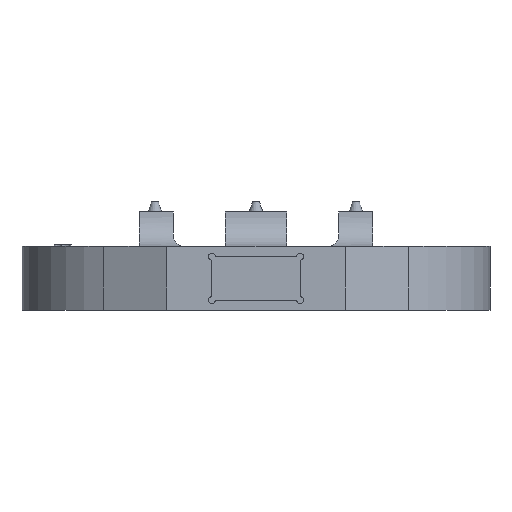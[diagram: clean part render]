
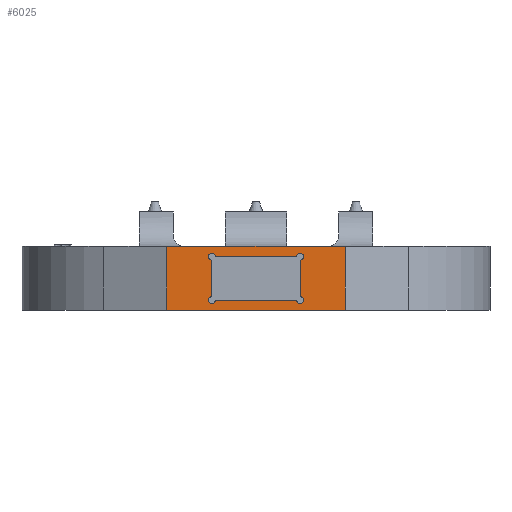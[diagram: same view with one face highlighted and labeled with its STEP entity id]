
A CAD part, left-side view. The second image highlights one B-rep face of the part: STEP entity #6025.
In plain terms, the highlighted planar face has unit normal (-1, 0, 0).
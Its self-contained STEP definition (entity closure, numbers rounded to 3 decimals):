
#6025=ADVANCED_FACE('',(#12111,#12113),#12115,.T.);
#12111=FACE_BOUND('',#12112,.T.);
#12112=EDGE_LOOP('',(#16607,#16608,#16609,#16610));
#12113=FACE_BOUND('',#12114,.T.);
#12114=EDGE_LOOP('',(#16611,#16612,#16613,#16614,#16615,#16616,#16617,#16618));
#12115=PLANE('',#12116);
#12116=AXIS2_PLACEMENT_3D('',#12117,#12118,#12119);
#12117=CARTESIAN_POINT('',(-190.,26.,0.));
#12118=DIRECTION('',(-1.,0.,0.));
#12119=DIRECTION('',(0.,-1.,0.));
#16607=ORIENTED_EDGE('',*,*,#19910,.T.);
#16608=ORIENTED_EDGE('',*,*,#19911,.T.);
#16609=ORIENTED_EDGE('',*,*,#18010,.F.);
#16610=ORIENTED_EDGE('',*,*,#19909,.F.);
#16611=ORIENTED_EDGE('',*,*,#19912,.T.);
#16612=ORIENTED_EDGE('',*,*,#19913,.T.);
#16613=ORIENTED_EDGE('',*,*,#19914,.T.);
#16614=ORIENTED_EDGE('',*,*,#19915,.T.);
#16615=ORIENTED_EDGE('',*,*,#19916,.T.);
#16616=ORIENTED_EDGE('',*,*,#19917,.T.);
#16617=ORIENTED_EDGE('',*,*,#19918,.T.);
#16618=ORIENTED_EDGE('',*,*,#19919,.T.);
#18010=EDGE_CURVE('',#20424,#20426,#20427,.T.);
#19909=EDGE_CURVE('',#23566,#20424,#23568,.T.);
#19910=EDGE_CURVE('',#23566,#23569,#23570,.T.);
#19911=EDGE_CURVE('',#23569,#20426,#23571,.T.);
#19912=EDGE_CURVE('',#23572,#23573,#23574,.F.);
#19913=EDGE_CURVE('',#23573,#23575,#23576,.F.);
#19914=EDGE_CURVE('',#23575,#23577,#23578,.F.);
#19915=EDGE_CURVE('',#23577,#23579,#23580,.F.);
#19916=EDGE_CURVE('',#23579,#23581,#23582,.F.);
#19917=EDGE_CURVE('',#23581,#23583,#23584,.F.);
#19918=EDGE_CURVE('',#23583,#23585,#23586,.F.);
#19919=EDGE_CURVE('',#23585,#23572,#23587,.F.);
#20424=VERTEX_POINT('',#24558);
#20426=VERTEX_POINT('',#24562);
#20427=LINE('',#24563,#24564);
#23566=VERTEX_POINT('',#32372);
#23568=LINE('',#32376,#32377);
#23569=VERTEX_POINT('',#32379);
#23570=LINE('',#32380,#32381);
#23571=LINE('',#32383,#32384);
#23572=VERTEX_POINT('',#32386);
#23573=VERTEX_POINT('',#32387);
#23574=CIRCLE('',#32388,1.);
#23575=VERTEX_POINT('',#32392);
#23576=LINE('',#32393,#32394);
#23577=VERTEX_POINT('',#32396);
#23578=CIRCLE('',#32397,1.);
#23579=VERTEX_POINT('',#32401);
#23580=LINE('',#32402,#32403);
#23581=VERTEX_POINT('',#32405);
#23582=CIRCLE('',#32406,1.);
#23583=VERTEX_POINT('',#32410);
#23584=LINE('',#32411,#32412);
#23585=VERTEX_POINT('',#32414);
#23586=CIRCLE('',#32415,1.);
#23587=LINE('',#32419,#32420);
#24558=CARTESIAN_POINT('',(-190.,26.,18.6));
#24562=CARTESIAN_POINT('',(-190.,-26.,18.6));
#24563=CARTESIAN_POINT('',(-190.,26.,18.6));
#24564=VECTOR('',#24565,1.);
#24565=DIRECTION('',(0.,-1.,0.));
#32372=CARTESIAN_POINT('',(-190.,26.,0.));
#32376=CARTESIAN_POINT('',(-190.,26.,0.));
#32377=VECTOR('',#32378,1.);
#32378=DIRECTION('',(0.,0.,1.));
#32379=CARTESIAN_POINT('',(-190.,-26.,0.));
#32380=CARTESIAN_POINT('',(-190.,26.,0.));
#32381=VECTOR('',#32382,1.);
#32382=DIRECTION('',(0.,-1.,0.));
#32383=CARTESIAN_POINT('',(-190.,-26.,0.));
#32384=VECTOR('',#32385,1.);
#32385=DIRECTION('',(0.,0.,1.));
#32386=CARTESIAN_POINT('',(-190.,-12.8,4.));
#32387=CARTESIAN_POINT('',(-190.,-11.8,3.));
#32388=AXIS2_PLACEMENT_3D('',#32389,#32390,#32391);
#32389=CARTESIAN_POINT('',(-190.,-12.8,3.));
#32390=DIRECTION('',(-1.,-0.,0.));
#32391=DIRECTION('',(0.,1.,0.));
#32392=CARTESIAN_POINT('',(-190.,11.8,3.));
#32393=CARTESIAN_POINT('',(-190.,11.8,3.));
#32394=VECTOR('',#32395,1.);
#32395=DIRECTION('',(0.,-1.,0.));
#32396=CARTESIAN_POINT('',(-190.,12.8,4.));
#32397=AXIS2_PLACEMENT_3D('',#32398,#32399,#32400);
#32398=CARTESIAN_POINT('',(-190.,12.8,3.));
#32399=DIRECTION('',(-1.,-0.,0.));
#32400=DIRECTION('',(0.,0.,1.));
#32401=CARTESIAN_POINT('',(-190.,12.8,14.6));
#32402=CARTESIAN_POINT('',(-190.,12.8,14.6));
#32403=VECTOR('',#32404,1.);
#32404=DIRECTION('',(0.,0.,-1.));
#32405=CARTESIAN_POINT('',(-190.,11.8,15.6));
#32406=AXIS2_PLACEMENT_3D('',#32407,#32408,#32409);
#32407=CARTESIAN_POINT('',(-190.,12.8,15.6));
#32408=DIRECTION('',(-1.,-0.,0.));
#32409=DIRECTION('',(0.,-1.,0.));
#32410=CARTESIAN_POINT('',(-190.,-11.8,15.6));
#32411=CARTESIAN_POINT('',(-190.,-11.8,15.6));
#32412=VECTOR('',#32413,1.);
#32413=DIRECTION('',(0.,1.,0.));
#32414=CARTESIAN_POINT('',(-190.,-12.8,14.6));
#32415=AXIS2_PLACEMENT_3D('',#32416,#32417,#32418);
#32416=CARTESIAN_POINT('',(-190.,-12.8,15.6));
#32417=DIRECTION('',(-1.,-0.,0.));
#32418=DIRECTION('',(0.,0.,-1.));
#32419=CARTESIAN_POINT('',(-190.,-12.8,4.));
#32420=VECTOR('',#32421,1.);
#32421=DIRECTION('',(0.,0.,1.));
